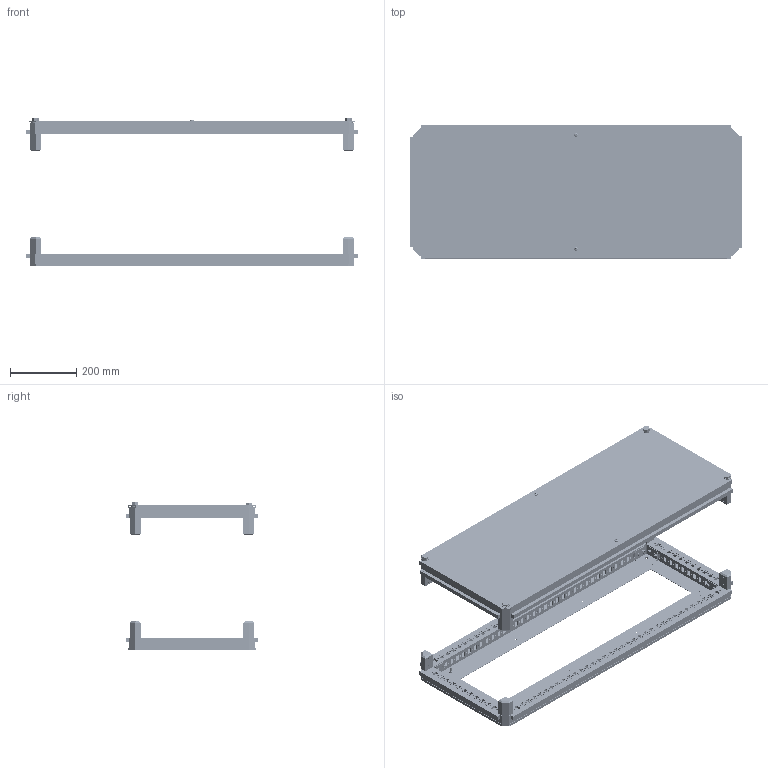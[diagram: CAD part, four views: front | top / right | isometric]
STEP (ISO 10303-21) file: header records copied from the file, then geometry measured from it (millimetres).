
FILE_DESCRIPTION (( 'STEP AP214' ), '1' );
FILE_NAME ('FO-00-KOF-040-100 Êðûøà è îñíîâàíèå (ïîä ôëàíåö) 400õ1000 ìì.STEP', '2025-08-25T11:42:40', ( '' ), ( '' ), 'SwSTEP 2.0', 'SolidWorks 2023', '' );
FILE_SCHEMA (( 'AUTOMOTIVE_DESIGN' ));
Length unit declared in the file: millimetre
Products named in the file (3): Крыша под фланец 400х1000; Основание под фланец 400х1000; FO-00-KOF-040-100 Крыша и основание (под фланец) 400х1000 мм
Assembly tree (2 placements, depth 2):
  FO-00-KOF-040-100 Крыша и основание (под фланец) 400х1000 мм
    Крыша под фланец 400х1000
    Основание под фланец 400х1000
Bounding box: 1000.1 x 400.1 x 446.9 mm (x, y, z)
Volume: 3507180.7 mm3; surface area: 2700623.5 mm2
Topology: 2 solids, 46 shells, 5093 faces, 14284 edges, 9468 vertices
Faces by surface type: plane 3055, cylinder 1596, cone 242, bspline 192, torus 4, sphere 4
Entity records: 171877 total; most frequent: CARTESIAN_POINT 36980, ORIENTED_EDGE 28560, DIRECTION 26722, EDGE_CURVE 14280, LINE 9530, VECTOR 9530, VERTEX_POINT 9468, AXIS2_PLACEMENT_3D 8596
